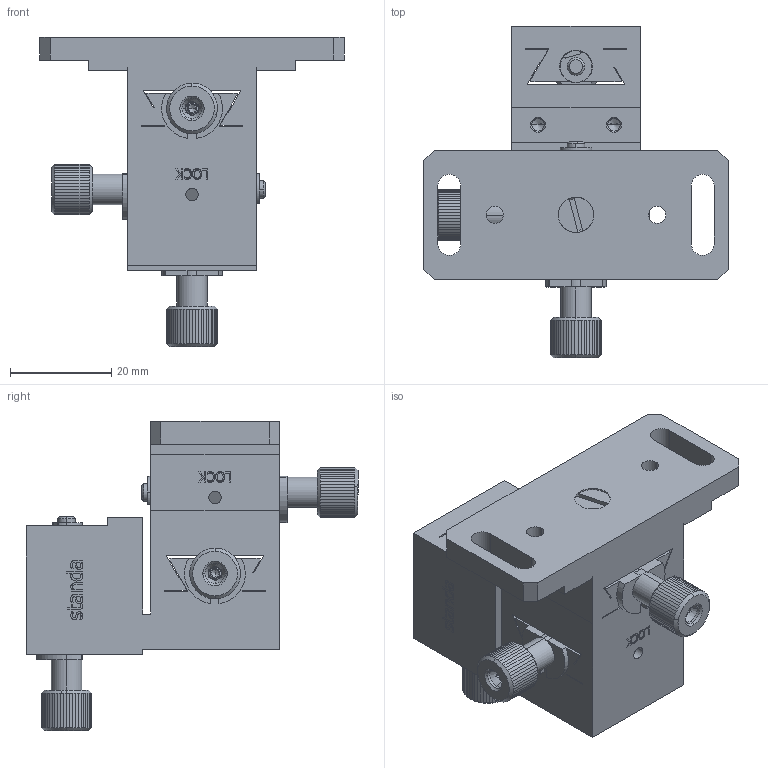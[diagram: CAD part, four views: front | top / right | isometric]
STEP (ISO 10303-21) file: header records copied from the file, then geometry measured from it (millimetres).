
FILE_DESCRIPTION (( 'STEP AP203' ), '1' );
FILE_NAME ('7T25-10-XYZ.STEP', '2010-11-17T09:01:34', ( 'Darius' ), ( '' ), 'SwSTEP 2.0', 'SolidWorks 2003240', '' );
FILE_SCHEMA (( 'CONFIG_CONTROL_DESIGN' ));
Length unit declared in the file: millimetre
Products named in the file (1): 7T25-10-XYZ
Bounding box: 60 x 65.5 x 61 mm (x, y, z)
Volume: 48273.9 mm3; surface area: 22239 mm2
Topology: 1 solids, 16 shells, 1367 faces, 3640 edges, 2342 vertices
Faces by surface type: plane 668, bspline 304, cylinder 249, cone 146
Entity records: 47129 total; most frequent: CARTESIAN_POINT 15848, ORIENTED_EDGE 7194, DIRECTION 5202, EDGE_CURVE 3597, VERTEX_POINT 2342, VECTOR 1942, LINE 1942, AXIS2_PLACEMENT_3D 1630
